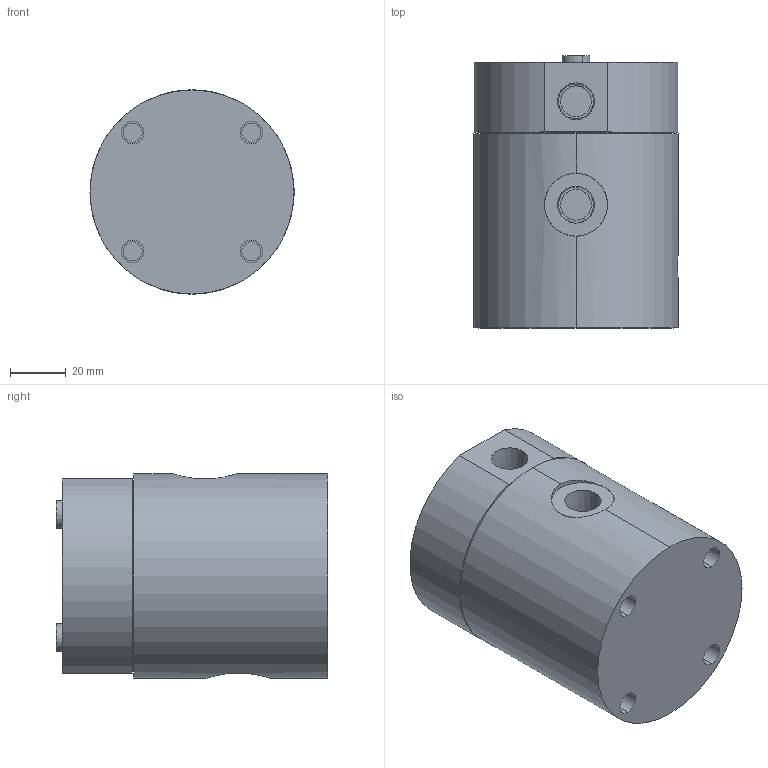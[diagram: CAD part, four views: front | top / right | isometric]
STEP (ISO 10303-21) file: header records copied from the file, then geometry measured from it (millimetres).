
FILE_DESCRIPTION((' '),'2;1');
FILE_NAME( 'PTMA02.x_t.stp', '2025-01-06T11:27:57', (' '), ('--- Datakit www.datakit.com---'), ' Datakit CrossCadWare V2024.1 Dec 21 2023', 'Mastercam 2025', ' ');
FILE_SCHEMA(('AUTOMOTIVE_DESIGN { 1 0 10303 214 1 1 1 1 }'));
Length unit declared in the file: millimetre
Products named in the file (1): PTMA02
Bounding box: 73 x 97.23 x 73 mm (x, y, z)
Volume: 381070.5 mm3; surface area: 44861.4 mm2
Topology: 4 solids, 4 shells, 122 faces, 272 edges, 180 vertices
Faces by surface type: plane 52, cylinder 50, cone 20
Entity records: 3874 total; most frequent: CARTESIAN_POINT 895, DIRECTION 630, ORIENTED_EDGE 544, EDGE_CURVE 272, AXIS2_PLACEMENT_3D 257, VERTEX_POINT 180, EDGE_LOOP 148, CIRCLE 134
